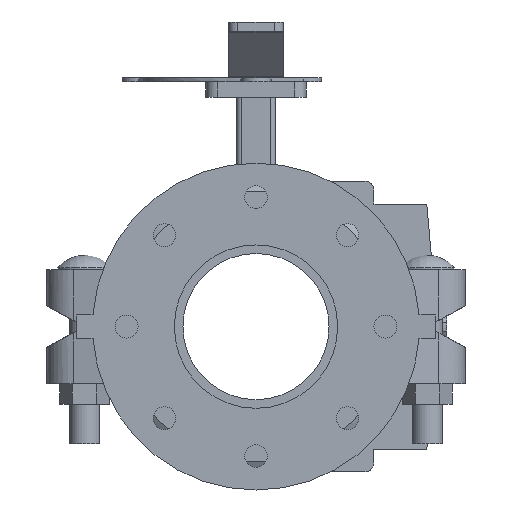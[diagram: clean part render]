
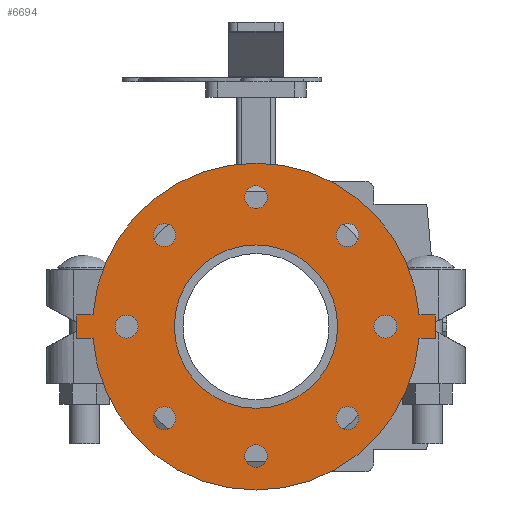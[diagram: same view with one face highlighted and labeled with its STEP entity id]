
A CAD part, front view. The second image highlights one B-rep face of the part: STEP entity #6694.
In plain terms, the highlighted planar face has unit normal (0, -1, 0) as drawn and (0, 0, -1) by its records, which use the part's own axes.
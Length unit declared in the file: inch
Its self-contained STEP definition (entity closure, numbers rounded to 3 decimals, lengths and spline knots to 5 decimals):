
#159=FACE_BOUND('',#834,.T.);
#160=FACE_BOUND('',#835,.T.);
#161=FACE_BOUND('',#836,.T.);
#162=FACE_BOUND('',#837,.T.);
#163=FACE_BOUND('',#838,.T.);
#164=FACE_BOUND('',#839,.T.);
#165=FACE_BOUND('',#840,.T.);
#166=FACE_BOUND('',#841,.T.);
#167=FACE_BOUND('',#842,.T.);
#244=PLANE('',#7259);
#462=FACE_OUTER_BOUND('',#833,.T.);
#833=EDGE_LOOP('',(#4350,#4351,#4352,#4353,#4354,#4355,#4356,#4357));
#834=EDGE_LOOP('',(#4358));
#835=EDGE_LOOP('',(#4359));
#836=EDGE_LOOP('',(#4360));
#837=EDGE_LOOP('',(#4361));
#838=EDGE_LOOP('',(#4362));
#839=EDGE_LOOP('',(#4363));
#840=EDGE_LOOP('',(#4364));
#841=EDGE_LOOP('',(#4365));
#842=EDGE_LOOP('',(#4366));
#1268=LINE('',#10157,#1783);
#1271=LINE('',#10163,#1786);
#1274=LINE('',#10168,#1789);
#1276=LINE('',#10173,#1791);
#1280=LINE('',#10180,#1795);
#1282=LINE('',#10183,#1797);
#1783=VECTOR('',#8085,0.3937);
#1786=VECTOR('',#8090,0.3937);
#1789=VECTOR('',#8095,0.3937);
#1791=VECTOR('',#8099,0.3937);
#1795=VECTOR('',#8105,0.3937);
#1797=VECTOR('',#8109,0.3937);
#2286=CIRCLE('',#7221,0.315);
#2288=CIRCLE('',#7224,0.315);
#2290=CIRCLE('',#7227,0.315);
#2292=CIRCLE('',#7230,0.315);
#2294=CIRCLE('',#7233,0.315);
#2296=CIRCLE('',#7236,0.315);
#2298=CIRCLE('',#7239,0.315);
#2300=CIRCLE('',#7242,0.315);
#2301=CIRCLE('',#7244,2.25);
#2303=CIRCLE('',#7247,4.5);
#2306=CIRCLE('',#7251,4.5);
#2669=VERTEX_POINT('',#10086);
#2671=VERTEX_POINT('',#10092);
#2673=VERTEX_POINT('',#10098);
#2675=VERTEX_POINT('',#10104);
#2677=VERTEX_POINT('',#10110);
#2679=VERTEX_POINT('',#10116);
#2681=VERTEX_POINT('',#10122);
#2683=VERTEX_POINT('',#10128);
#2684=VERTEX_POINT('',#10132);
#2686=VERTEX_POINT('',#10138);
#2688=VERTEX_POINT('',#10141);
#2690=VERTEX_POINT('',#10147);
#2693=VERTEX_POINT('',#10152);
#2694=VERTEX_POINT('',#10156);
#2696=VERTEX_POINT('',#10162);
#2698=VERTEX_POINT('',#10171);
#2699=VERTEX_POINT('',#10172);
#3313=EDGE_CURVE('',#2669,#2669,#2286,.T.);
#3316=EDGE_CURVE('',#2671,#2671,#2288,.T.);
#3319=EDGE_CURVE('',#2673,#2673,#2290,.T.);
#3322=EDGE_CURVE('',#2675,#2675,#2292,.T.);
#3325=EDGE_CURVE('',#2677,#2677,#2294,.T.);
#3328=EDGE_CURVE('',#2679,#2679,#2296,.T.);
#3331=EDGE_CURVE('',#2681,#2681,#2298,.T.);
#3334=EDGE_CURVE('',#2683,#2683,#2300,.T.);
#3335=EDGE_CURVE('',#2684,#2684,#2301,.T.);
#3339=EDGE_CURVE('',#2686,#2688,#2303,.T.);
#3345=EDGE_CURVE('',#2693,#2690,#2306,.T.);
#3346=EDGE_CURVE('',#2688,#2694,#1268,.T.);
#3349=EDGE_CURVE('',#2696,#2693,#1271,.T.);
#3352=EDGE_CURVE('',#2694,#2696,#1274,.T.);
#3354=EDGE_CURVE('',#2698,#2699,#1276,.T.);
#3358=EDGE_CURVE('',#2690,#2698,#1280,.T.);
#3360=EDGE_CURVE('',#2699,#2686,#1282,.T.);
#4350=ORIENTED_EDGE('',*,*,#3360,.F.);
#4351=ORIENTED_EDGE('',*,*,#3354,.F.);
#4352=ORIENTED_EDGE('',*,*,#3358,.F.);
#4353=ORIENTED_EDGE('',*,*,#3345,.F.);
#4354=ORIENTED_EDGE('',*,*,#3349,.F.);
#4355=ORIENTED_EDGE('',*,*,#3352,.F.);
#4356=ORIENTED_EDGE('',*,*,#3346,.F.);
#4357=ORIENTED_EDGE('',*,*,#3339,.F.);
#4358=ORIENTED_EDGE('',*,*,#3313,.T.);
#4359=ORIENTED_EDGE('',*,*,#3316,.T.);
#4360=ORIENTED_EDGE('',*,*,#3319,.T.);
#4361=ORIENTED_EDGE('',*,*,#3322,.T.);
#4362=ORIENTED_EDGE('',*,*,#3325,.T.);
#4363=ORIENTED_EDGE('',*,*,#3328,.T.);
#4364=ORIENTED_EDGE('',*,*,#3331,.T.);
#4365=ORIENTED_EDGE('',*,*,#3334,.T.);
#4366=ORIENTED_EDGE('',*,*,#3335,.T.);
#6694=ADVANCED_FACE('',(#462,#159,#160,#161,#162,#163,#164,#165,#166,#167),
#244,.F.);
#7221=AXIS2_PLACEMENT_3D('',#10088,#8009,#8010);
#7224=AXIS2_PLACEMENT_3D('',#10094,#8016,#8017);
#7227=AXIS2_PLACEMENT_3D('',#10100,#8023,#8024);
#7230=AXIS2_PLACEMENT_3D('',#10106,#8030,#8031);
#7233=AXIS2_PLACEMENT_3D('',#10112,#8037,#8038);
#7236=AXIS2_PLACEMENT_3D('',#10118,#8044,#8045);
#7239=AXIS2_PLACEMENT_3D('',#10124,#8051,#8052);
#7242=AXIS2_PLACEMENT_3D('',#10130,#8058,#8059);
#7244=AXIS2_PLACEMENT_3D('',#10133,#8062,#8063);
#7247=AXIS2_PLACEMENT_3D('',#10142,#8070,#8071);
#7251=AXIS2_PLACEMENT_3D('',#10154,#8081,#8082);
#7259=AXIS2_PLACEMENT_3D('',#10186,#8113,#8114);
#8009=DIRECTION('center_axis',(0.,0.,1.));
#8010=DIRECTION('ref_axis',(-0.707,-0.707,0.));
#8016=DIRECTION('center_axis',(0.,0.,1.));
#8017=DIRECTION('ref_axis',(-1.,0.,0.));
#8023=DIRECTION('center_axis',(0.,0.,1.));
#8024=DIRECTION('ref_axis',(-0.707,0.707,0.));
#8030=DIRECTION('center_axis',(0.,0.,1.));
#8031=DIRECTION('ref_axis',(0.,1.,0.));
#8037=DIRECTION('center_axis',(0.,0.,1.));
#8038=DIRECTION('ref_axis',(0.707,0.707,0.));
#8044=DIRECTION('center_axis',(0.,0.,1.));
#8045=DIRECTION('ref_axis',(1.,0.,0.));
#8051=DIRECTION('center_axis',(0.,0.,1.));
#8052=DIRECTION('ref_axis',(0.707,-0.707,0.));
#8058=DIRECTION('center_axis',(0.,0.,1.));
#8059=DIRECTION('ref_axis',(0.,-1.,0.));
#8062=DIRECTION('center_axis',(0.,0.,1.));
#8063=DIRECTION('ref_axis',(0.,-1.,0.));
#8070=DIRECTION('center_axis',(0.,0.,1.));
#8071=DIRECTION('ref_axis',(0.,1.,0.));
#8081=DIRECTION('center_axis',(0.,0.,1.));
#8082=DIRECTION('ref_axis',(0.,1.,0.));
#8085=DIRECTION('',(0.,-1.,0.));
#8090=DIRECTION('',(0.,1.,0.));
#8095=DIRECTION('',(1.,0.,0.));
#8099=DIRECTION('',(-1.,0.,0.));
#8105=DIRECTION('',(0.,1.,0.));
#8109=DIRECTION('',(0.,-1.,0.));
#8113=DIRECTION('center_axis',(0.,0.,1.));
#8114=DIRECTION('ref_axis',(0.,1.,0.));
#10086=CARTESIAN_POINT('',(-2.2981,2.74357,0.));
#10088=CARTESIAN_POINT('Origin',(-2.52084,2.52084,0.));
#10092=CARTESIAN_POINT('',(0.315,3.565,0.));
#10094=CARTESIAN_POINT('Origin',(0.,3.565,0.));
#10098=CARTESIAN_POINT('',(2.74357,2.2981,0.));
#10100=CARTESIAN_POINT('Origin',(2.52084,2.52084,0.));
#10104=CARTESIAN_POINT('',(3.565,-0.315,0.));
#10106=CARTESIAN_POINT('Origin',(3.565,0.,0.));
#10110=CARTESIAN_POINT('',(2.2981,-2.74357,0.));
#10112=CARTESIAN_POINT('Origin',(2.52084,-2.52084,0.));
#10116=CARTESIAN_POINT('',(-0.315,-3.565,0.));
#10118=CARTESIAN_POINT('Origin',(0.,-3.565,0.));
#10122=CARTESIAN_POINT('',(-2.74357,-2.2981,0.));
#10124=CARTESIAN_POINT('Origin',(-2.52084,-2.52084,0.));
#10128=CARTESIAN_POINT('',(-3.565,0.315,0.));
#10130=CARTESIAN_POINT('Origin',(-3.565,0.,0.));
#10132=CARTESIAN_POINT('',(0.,2.25,0.));
#10133=CARTESIAN_POINT('Origin',(0.,0.,0.));
#10138=CARTESIAN_POINT('',(-0.32,4.48861,0.));
#10141=CARTESIAN_POINT('',(-0.32,-4.48861,0.));
#10142=CARTESIAN_POINT('Origin',(0.,0.,0.));
#10147=CARTESIAN_POINT('',(0.32,4.48861,0.));
#10152=CARTESIAN_POINT('',(0.32,-4.48861,0.));
#10154=CARTESIAN_POINT('Origin',(0.,0.,0.));
#10156=CARTESIAN_POINT('',(-0.32,-4.94,0.));
#10157=CARTESIAN_POINT('',(-0.32,-4.48861,0.));
#10162=CARTESIAN_POINT('',(0.32,-4.94,0.));
#10163=CARTESIAN_POINT('',(0.32,-4.94,0.));
#10168=CARTESIAN_POINT('',(-0.32,-4.94,0.));
#10171=CARTESIAN_POINT('',(0.32,4.94,0.));
#10172=CARTESIAN_POINT('',(-0.32,4.94,0.));
#10173=CARTESIAN_POINT('',(0.32,4.94,0.));
#10180=CARTESIAN_POINT('',(0.32,4.48861,0.));
#10183=CARTESIAN_POINT('',(-0.32,4.94,0.));
#10186=CARTESIAN_POINT('Origin',(0.,4.73391,
0.));
